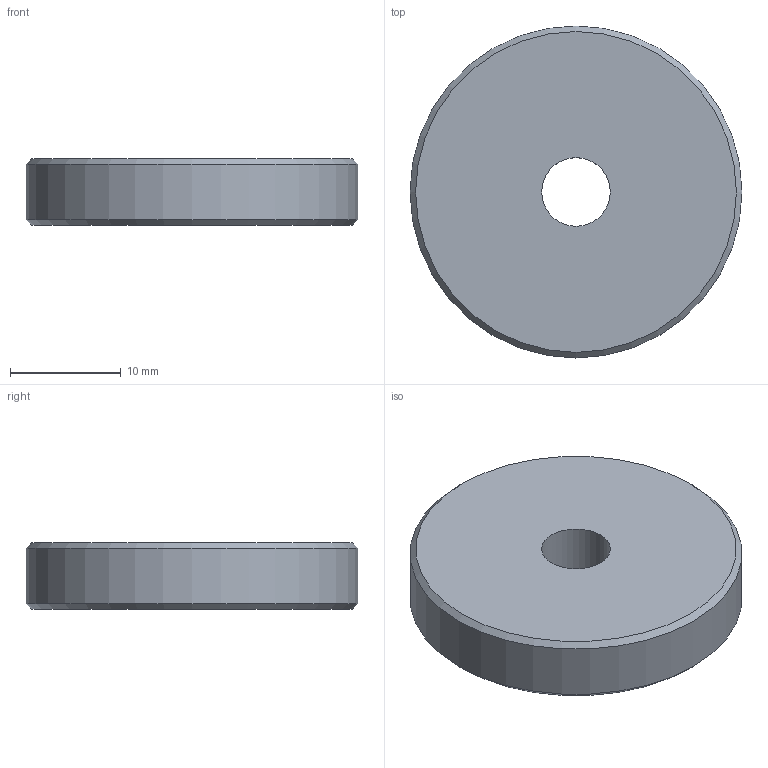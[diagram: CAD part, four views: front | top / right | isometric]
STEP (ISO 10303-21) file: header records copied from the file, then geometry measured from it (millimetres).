
FILE_DESCRIPTION (( 'STEP AP214' ), '1' );
FILE_NAME ('N90105.step', '2024-12-03T16:27:56', ( '' ), ( '' ), 'SwSTEP 2.0', 'SolidWorks 2023', '' );
FILE_SCHEMA (( 'AUTOMOTIVE_DESIGN' ));
Length unit declared in the file: millimetre
Products named in the file (1): N90105
Bounding box: 30 x 30 x 6 mm (x, y, z)
Volume: 4036.7 mm3; surface area: 1979.8 mm2
Topology: 1 solids, 1 shells, 6 faces, 10 edges, 6 vertices
Faces by surface type: plane 2, cylinder 2, cone 2
Full cylindrical faces by diameter (mm): 6.2 x1, 30 x1
Entity records: 151 total; most frequent: DIRECTION 26, CARTESIAN_POINT 19, AXIS2_PLACEMENT_3D 13, EDGE_LOOP 12, ORIENTED_EDGE 12, FACE_OUTER_BOUND 8, EDGE_CURVE 6, ADVANCED_FACE 6
